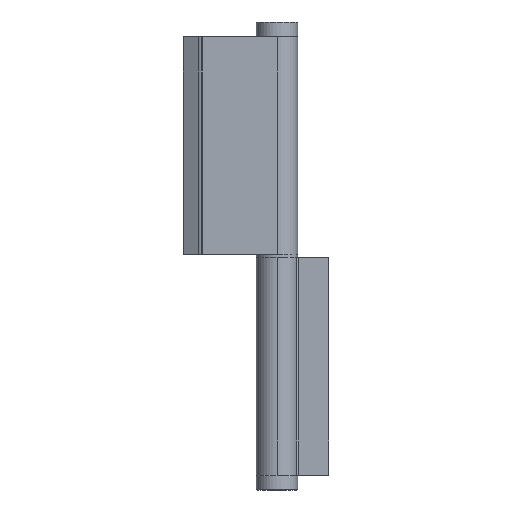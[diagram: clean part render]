
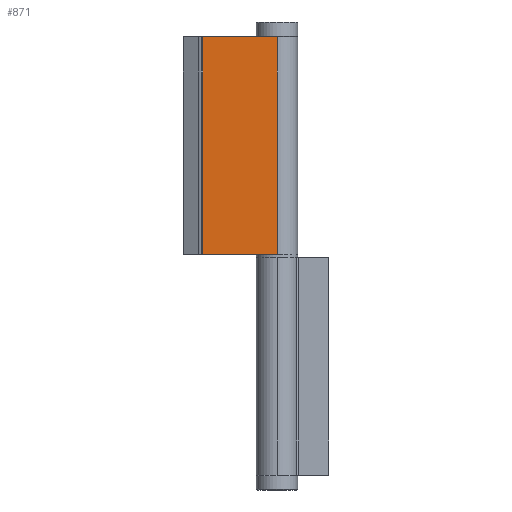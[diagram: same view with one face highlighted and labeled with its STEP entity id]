
A CAD part, front view. The second image highlights one B-rep face of the part: STEP entity #871.
In plain terms, the highlighted planar face has unit normal (0, -1, 0).
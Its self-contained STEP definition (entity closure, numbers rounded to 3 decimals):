
#626=CARTESIAN_POINT('',(-4.5,-5.0,-25.0));
#627=VERTEX_POINT('',#626);
#635=CARTESIAN_POINT('',(-4.5,-5.0,91.0));
#636=VERTEX_POINT('',#635);
#637=CARTESIAN_POINT('',(-4.5,-5.0,91.0));
#638=DIRECTION('',(0.0,0.0,-1.0));
#639=VECTOR('',#638,116.0);
#640=LINE('',#637,#639);
#641=EDGE_CURVE('',#636,#627,#640,.T.);
#689=CARTESIAN_POINT('',(35.3,-5.0,91.0));
#690=VERTEX_POINT('',#689);
#691=CARTESIAN_POINT('',(35.3,-5.0,91.0));
#692=DIRECTION('',(-1.0,0.0,0.0));
#693=VECTOR('',#692,39.8);
#694=LINE('',#691,#693);
#695=EDGE_CURVE('',#690,#636,#694,.T.);
#837=CARTESIAN_POINT('',(35.3,-5.0,-25.0));
#838=VERTEX_POINT('',#837);
#839=CARTESIAN_POINT('',(35.3,-5.0,-25.0));
#840=DIRECTION('',(0.0,0.0,1.0));
#841=VECTOR('',#840,116.0);
#842=LINE('',#839,#841);
#843=EDGE_CURVE('',#838,#690,#842,.T.);
#855=CARTESIAN_POINT('',(35.3,-5.0,-25.0));
#856=DIRECTION('',(0.0,-1.0,0.0));
#857=DIRECTION('',(0.0,0.0,-1.0));
#858=AXIS2_PLACEMENT_3D('',#855,#856,#857);
#859=PLANE('',#858);
#860=ORIENTED_EDGE('',*,*,#641,.T.);
#861=CARTESIAN_POINT('',(-4.5,-5.0,-25.0));
#862=DIRECTION('',(1.0,0.0,0.0));
#863=VECTOR('',#862,39.8);
#864=LINE('',#861,#863);
#865=EDGE_CURVE('',#627,#838,#864,.T.);
#866=ORIENTED_EDGE('',*,*,#865,.T.);
#867=ORIENTED_EDGE('',*,*,#843,.T.);
#868=ORIENTED_EDGE('',*,*,#695,.T.);
#869=EDGE_LOOP('',(#860,#866,#867,#868));
#870=FACE_OUTER_BOUND('',#869,.T.);
#871=ADVANCED_FACE('',(#870),#859,.T.);
